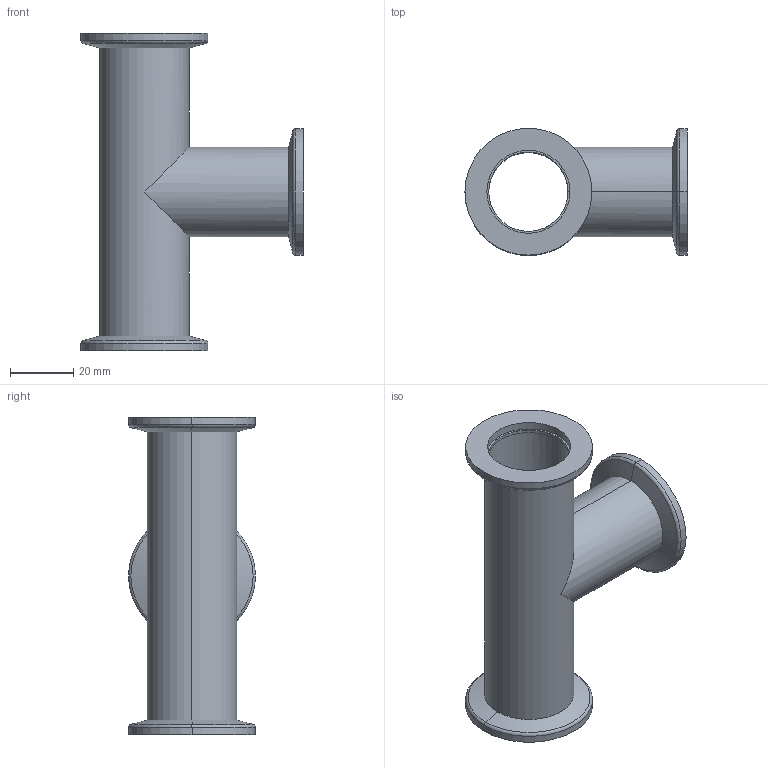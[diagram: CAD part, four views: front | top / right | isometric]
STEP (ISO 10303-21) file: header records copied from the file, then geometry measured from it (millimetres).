
FILE_DESCRIPTION (( 'STEP AP214' ), '1' );
FILE_NAME ('W3TS25.STEP', '2020-04-09T07:55:41', ( '' ), ( '' ), 'SwSTEP 2.0', 'SolidWorks 2018', '' );
FILE_SCHEMA (( 'AUTOMOTIVE_DESIGN' ));
Length unit declared in the file: millimetre
Products named in the file (1): W3TS25
Bounding box: 70 x 40 x 100 mm (x, y, z)
Volume: 24485.8 mm3; surface area: 28100.3 mm2
Topology: 5 solids, 5 shells, 60 faces, 132 edges, 82 vertices
Faces by surface type: cylinder 32, plane 16, torus 6, cone 6
Entity records: 1758 total; most frequent: CARTESIAN_POINT 323, DIRECTION 310, ORIENTED_EDGE 264, AXIS2_PLACEMENT_3D 133, EDGE_CURVE 132, VERTEX_POINT 82, CIRCLE 72, EDGE_LOOP 72
